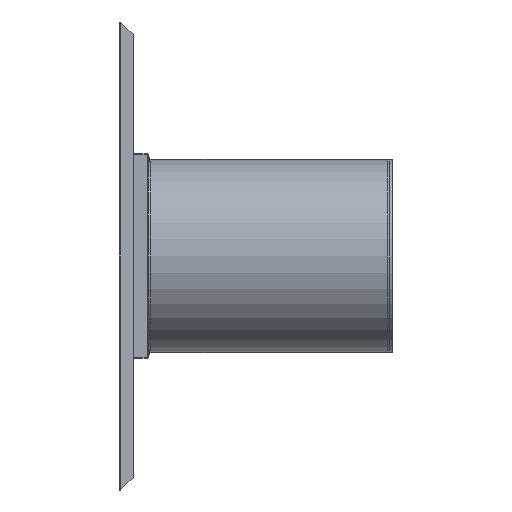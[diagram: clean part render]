
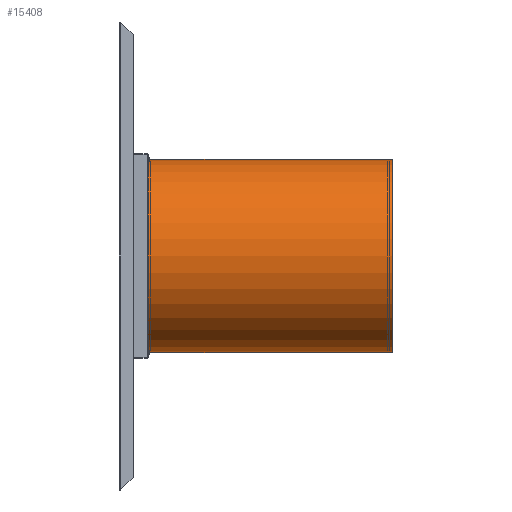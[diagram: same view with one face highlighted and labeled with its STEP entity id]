
A CAD part, left-side view. The second image highlights one B-rep face of the part: STEP entity #15408.
In plain terms, the highlighted cylindrical face has radius 265 mm (diameter 530 mm), a partial arc.
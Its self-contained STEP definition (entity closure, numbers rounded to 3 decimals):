
#330 = VERTEX_POINT ( 'NONE', #13001 ) ;
#1124 = CIRCLE ( 'NONE', #5610, 265. ) ;
#1420 = ORIENTED_EDGE ( 'NONE', *, *, #11309, .F. ) ;
#1478 = DIRECTION ( 'NONE',  ( 0., -1., 0. ) ) ;
#3122 = AXIS2_PLACEMENT_3D ( 'NONE', #5698, #5779, #5946 ) ;
#3293 = EDGE_CURVE ( 'NONE', #330, #12417, #3708, .T. ) ;
#3708 = LINE ( 'NONE', #7194, #5709 ) ;
#4480 = DIRECTION ( 'NONE',  ( 0., -1., 0. ) ) ;
#4999 = EDGE_CURVE ( 'NONE', #12417, #13691, #15240, .T. ) ;
#5250 = EDGE_CURVE ( 'NONE', #7422, #13691, #14933, .T. ) ;
#5610 = AXIS2_PLACEMENT_3D ( 'NONE', #11009, #16030, #14576 ) ;
#5698 = CARTESIAN_POINT ( 'NONE',  ( 0., 0., 0. ) ) ;
#5709 = VECTOR ( 'NONE', #4480, 1000. ) ;
#5779 = DIRECTION ( 'NONE',  ( 0., 1., 0. ) ) ;
#5946 = DIRECTION ( 'NONE',  ( 0., 0., 1. ) ) ;
#6020 = CARTESIAN_POINT ( 'NONE',  ( 0., 670., 265. ) ) ;
#6125 = ORIENTED_EDGE ( 'NONE', *, *, #4999, .T. ) ;
#6831 = CARTESIAN_POINT ( 'NONE',  ( 0., 670., 0. ) ) ;
#7194 = CARTESIAN_POINT ( 'NONE',  ( 0., 670., -265. ) ) ;
#7421 = DIRECTION ( 'NONE',  ( 0., -1., 0. ) ) ;
#7422 = VERTEX_POINT ( 'NONE', #6020 ) ;
#9154 = DIRECTION ( 'NONE',  ( 0., 0., -1. ) ) ;
#9664 = ORIENTED_EDGE ( 'NONE', *, *, #5250, .F. ) ;
#10131 = CARTESIAN_POINT ( 'NONE',  ( 0., 0., -265. ) ) ;
#10559 = FACE_OUTER_BOUND ( 'NONE', #11568, .T. ) ;
#11009 = CARTESIAN_POINT ( 'NONE',  ( 0., 670., 0. ) ) ;
#11037 = VECTOR ( 'NONE', #7421, 1000. ) ;
#11055 = CARTESIAN_POINT ( 'NONE',  ( 0., 670., 265. ) ) ;
#11309 = EDGE_CURVE ( 'NONE', #330, #7422, #1124, .T. ) ;
#11515 = AXIS2_PLACEMENT_3D ( 'NONE', #6831, #1478, #9154 ) ;
#11568 = EDGE_LOOP ( 'NONE', ( #9664, #1420, #13126, #6125 ) ) ;
#11971 = CARTESIAN_POINT ( 'NONE',  ( 0., 0., 265. ) ) ;
#12417 = VERTEX_POINT ( 'NONE', #10131 ) ;
#13001 = CARTESIAN_POINT ( 'NONE',  ( 0., 670., -265. ) ) ;
#13126 = ORIENTED_EDGE ( 'NONE', *, *, #3293, .T. ) ;
#13691 = VERTEX_POINT ( 'NONE', #11971 ) ;
#14576 = DIRECTION ( 'NONE',  ( 0., 0., 1. ) ) ;
#14933 = LINE ( 'NONE', #11055, #11037 ) ;
#15240 = CIRCLE ( 'NONE', #3122, 265. ) ;
#15407 = CYLINDRICAL_SURFACE ( 'NONE', #11515, 265. ) ;
#15408 = ADVANCED_FACE ( 'NONE', ( #10559 ), #15407, .T. ) ;
#16030 = DIRECTION ( 'NONE',  ( 0., 1., 0. ) ) ;
